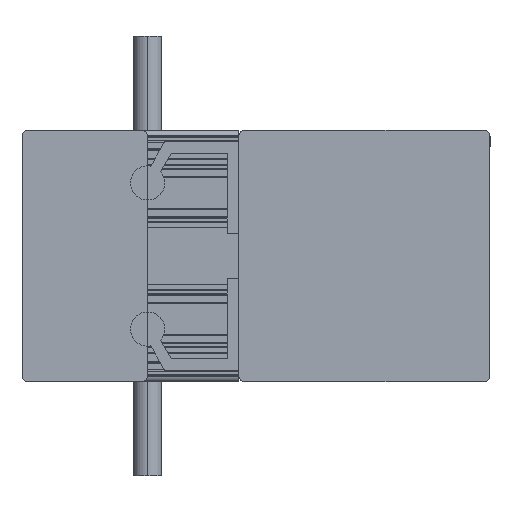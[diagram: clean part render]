
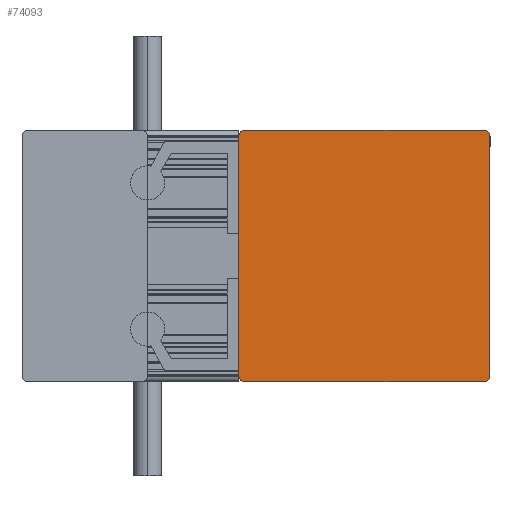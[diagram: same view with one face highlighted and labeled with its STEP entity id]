
A CAD part, left-side view. The second image highlights one B-rep face of the part: STEP entity #74093.
In plain terms, the highlighted planar face has unit normal (-1, 0, 0).
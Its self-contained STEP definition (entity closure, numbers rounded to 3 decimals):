
#1425 = AXIS2_PLACEMENT_3D ( 'NONE', #11265, #18575, #45851 ) ;
#2048 = EDGE_CURVE ( 'NONE', #33230, #66360, #75439, .T. ) ;
#2878 = DIRECTION ( 'NONE',  ( 0., 0., -1. ) ) ;
#3941 = CARTESIAN_POINT ( 'NONE',  ( -5., 42., 44. ) ) ;
#4743 = ORIENTED_EDGE ( 'NONE', *, *, #39005, .T. ) ;
#7111 = EDGE_CURVE ( 'NONE', #44542, #68058, #69955, .T. ) ;
#8927 = EDGE_CURVE ( 'NONE', #63136, #23175, #61292, .T. ) ;
#11265 = CARTESIAN_POINT ( 'NONE',  ( -5., 42., -42. ) ) ;
#13183 = CIRCLE ( 'NONE', #70382, 2. ) ;
#14047 = ORIENTED_EDGE ( 'NONE', *, *, #83830, .T. ) ;
#15147 = ORIENTED_EDGE ( 'NONE', *, *, #82517, .T. ) ;
#18349 = ORIENTED_EDGE ( 'NONE', *, *, #7111, .T. ) ;
#18575 = DIRECTION ( 'NONE',  ( -1., 0., 0. ) ) ;
#20417 = AXIS2_PLACEMENT_3D ( 'NONE', #84195, #56326, #70350 ) ;
#21478 = ORIENTED_EDGE ( 'NONE', *, *, #51043, .T. ) ;
#22133 = CARTESIAN_POINT ( 'NONE',  ( -5., -44., -42. ) ) ;
#22294 = CARTESIAN_POINT ( 'NONE',  ( -5., 42., 44. ) ) ;
#23175 = VERTEX_POINT ( 'NONE', #33052 ) ;
#23595 = DIRECTION ( 'NONE',  ( -1., 0., 0. ) ) ;
#23876 = FACE_OUTER_BOUND ( 'NONE', #84531, .T. ) ;
#24690 = ORIENTED_EDGE ( 'NONE', *, *, #8927, .T. ) ;
#30246 = ORIENTED_EDGE ( 'NONE', *, *, #2048, .T. ) ;
#30426 = VERTEX_POINT ( 'NONE', #58672 ) ;
#30547 = PLANE ( 'NONE',  #37057 ) ;
#30965 = VECTOR ( 'NONE', #85044, 1000. ) ;
#33052 = CARTESIAN_POINT ( 'NONE',  ( -5., -44., 42. ) ) ;
#33230 = VERTEX_POINT ( 'NONE', #33942 ) ;
#33942 = CARTESIAN_POINT ( 'NONE',  ( -5., -42., 44. ) ) ;
#34884 = CIRCLE ( 'NONE', #79362, 2. ) ;
#35479 = DIRECTION ( 'NONE',  ( 0., 0., 1. ) ) ;
#37057 = AXIS2_PLACEMENT_3D ( 'NONE', #43360, #23595, #57828 ) ;
#39005 = EDGE_CURVE ( 'NONE', #66360, #44542, #13183, .T. ) ;
#39240 = CIRCLE ( 'NONE', #20417, 2. ) ;
#43360 = CARTESIAN_POINT ( 'NONE',  ( -5., 42., -42. ) ) ;
#44542 = VERTEX_POINT ( 'NONE', #89709 ) ;
#44829 = CARTESIAN_POINT ( 'NONE',  ( -5., -44., -42. ) ) ;
#45851 = DIRECTION ( 'NONE',  ( 0., 0., 1. ) ) ;
#47115 = VECTOR ( 'NONE', #2878, 1000. ) ;
#47861 = VECTOR ( 'NONE', #82147, 1000. ) ;
#47987 = CARTESIAN_POINT ( 'NONE',  ( -5., 44., -42. ) ) ;
#49822 = CARTESIAN_POINT ( 'NONE',  ( -5., 42., -44. ) ) ;
#51043 = EDGE_CURVE ( 'NONE', #30426, #63136, #34884, .T. ) ;
#56050 = VERTEX_POINT ( 'NONE', #49822 ) ;
#56326 = DIRECTION ( 'NONE',  ( -1., 0., 0. ) ) ;
#57828 = DIRECTION ( 'NONE',  ( 0., 0., 1. ) ) ;
#58672 = CARTESIAN_POINT ( 'NONE',  ( -5., -42., -44. ) ) ;
#59447 = EDGE_CURVE ( 'NONE', #56050, #30426, #72834, .T. ) ;
#61292 = LINE ( 'NONE', #22133, #84035 ) ;
#63136 = VERTEX_POINT ( 'NONE', #44829 ) ;
#64275 = CIRCLE ( 'NONE', #1425, 2. ) ;
#66360 = VERTEX_POINT ( 'NONE', #3941 ) ;
#67990 = DIRECTION ( 'NONE',  ( -1., 0., 0. ) ) ;
#68058 = VERTEX_POINT ( 'NONE', #47987 ) ;
#68666 = CARTESIAN_POINT ( 'NONE',  ( -5., -42., -42. ) ) ;
#69955 = LINE ( 'NONE', #85014, #47115 ) ;
#70350 = DIRECTION ( 'NONE',  ( 0., 0., 1. ) ) ;
#70382 = AXIS2_PLACEMENT_3D ( 'NONE', #75256, #67990, #74674 ) ;
#72834 = LINE ( 'NONE', #89411, #47861 ) ;
#74093 = ADVANCED_FACE ( 'NONE', ( #23876 ), #30547, .T. ) ;
#74674 = DIRECTION ( 'NONE',  ( 0., 0., -1. ) ) ;
#75256 = CARTESIAN_POINT ( 'NONE',  ( -5., 42., 42. ) ) ;
#75439 = LINE ( 'NONE', #22294, #30965 ) ;
#79362 = AXIS2_PLACEMENT_3D ( 'NONE', #68666, #82260, #82562 ) ;
#82147 = DIRECTION ( 'NONE',  ( 0., -1., 0. ) ) ;
#82260 = DIRECTION ( 'NONE',  ( -1., 0., 0. ) ) ;
#82517 = EDGE_CURVE ( 'NONE', #23175, #33230, #39240, .T. ) ;
#82562 = DIRECTION ( 'NONE',  ( 0., 0., 1. ) ) ;
#83830 = EDGE_CURVE ( 'NONE', #68058, #56050, #64275, .T. ) ;
#84035 = VECTOR ( 'NONE', #35479, 1000. ) ;
#84195 = CARTESIAN_POINT ( 'NONE',  ( -5., -42., 42. ) ) ;
#84531 = EDGE_LOOP ( 'NONE', ( #14047, #88833, #21478, #24690, #15147, #30246, #4743, #18349 ) ) ;
#85014 = CARTESIAN_POINT ( 'NONE',  ( -5., 44., -42. ) ) ;
#85044 = DIRECTION ( 'NONE',  ( 0., 1., 0. ) ) ;
#88833 = ORIENTED_EDGE ( 'NONE', *, *, #59447, .T. ) ;
#89411 = CARTESIAN_POINT ( 'NONE',  ( -5., 42., -44. ) ) ;
#89709 = CARTESIAN_POINT ( 'NONE',  ( -5., 44., 42. ) ) ;
